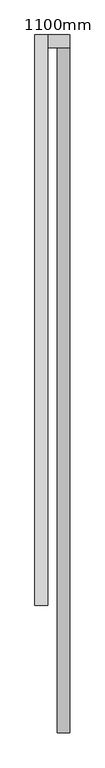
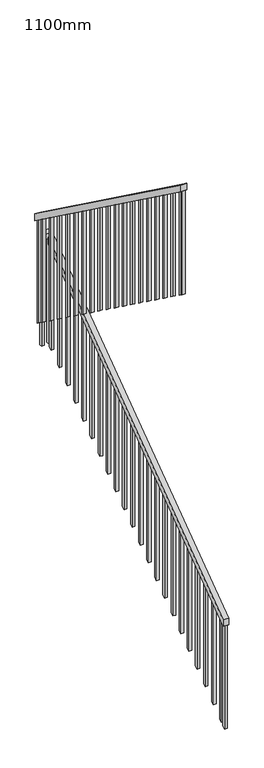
"""IFC4 building model written with IfcOpenShell, lengths in millimetres: railing geometry, 1100mm."""

from ifc_helpers import new_model, si_unit, frame, origin, place, context, project, spatial, polyline, outline, extrude, source, transform, mapped, element, save


def railing_1100mm_749a05fc(model_context):
    return source(origin(), model_context, "Body", "SweptSolid", [
        extrude(outline(polyline([(2041.5551306, 1219.9933159), (2041.5551306, 1281.8181818), (4741.5551306, 3245.4545455), (4741.5551306, 3183.6296795), (2041.5551306, 1219.9933159)])), frame((-10272.9693087, 0.0, 0.0), z_axis=(1.0, 0.0, 0.0), x_axis=(0.0, 1.0, 0.0)), (0.0, 0.0, 1.0), 50.0),
        extrude(outline(polyline([(-10222.9693087, 4791.5551306), (-10222.9693087, 4741.5551306), (-10310.8244727, 4741.5551306), (-10310.8244727, 4791.5551306), (-10222.9693087, 4791.5551306)])), frame((0.0, 0.0, 3231.8181818), z_axis=(0.0, 0.0, 1.0), x_axis=(1.0, 0.0, 0.0)), (0.0, 0.0, 1.0), 50.0),
        extrude(outline(polyline([(4791.5551306, 3463.6363636), (4791.5551306, 3401.8114977), (2541.5551306, 5038.1751341), (2541.5551306, 5100.0), (4791.5551306, 3463.6363636)])), frame((-10360.8244727, 0.0, 0.0), z_axis=(1.0, 0.0, 0.0), x_axis=(0.0, 1.0, 0.0)), (0.0, 0.0, 1.0), 50.0),
        extrude(outline(polyline([(2591.5551306, 4029.3786078), (2566.5551306, 4047.560426), (2566.5551306, 5019.9933159), (2591.5551306, 5001.8114977), (2591.5551306, 4029.3786078)])), frame((-10348.3244727, 0.0, 0.0), z_axis=(1.0, 0.0, 0.0), x_axis=(0.0, 1.0, 0.0)), (0.0, 0.0, 1.0), 25.0),
        extrude(outline(polyline([(2716.5551306, 3938.4695169), (2691.5551306, 3956.6513351), (2691.5551306, 4929.084225), (2716.5551306, 4910.9024068), (2716.5551306, 3938.4695169)])), frame((-10348.3244727, 0.0, 0.0), z_axis=(1.0, 0.0, 0.0), x_axis=(0.0, 1.0, 0.0)), (0.0, 0.0, 1.0), 25.0),
        extrude(outline(polyline([(2841.5551306, 3847.560426), (2816.5551306, 3865.7422442), (2816.5551306, 4838.1751341), (2841.5551306, 4819.9933159), (2841.5551306, 3847.560426)])), frame((-10348.3244727, 0.0, 0.0), z_axis=(1.0, 0.0, 0.0), x_axis=(0.0, 1.0, 0.0)), (0.0, 0.0, 1.0), 25.0),
        extrude(outline(polyline([(2966.5551306, 3756.6513351), (2941.5551306, 3774.8331533), (2941.5551306, 4747.2660431), (2966.5551306, 4729.084225), (2966.5551306, 3756.6513351)])), frame((-10348.3244727, 0.0, 0.0), z_axis=(1.0, 0.0, 0.0), x_axis=(0.0, 1.0, 0.0)), (0.0, 0.0, 1.0), 25.0),
        extrude(outline(polyline([(3091.5551306, 3665.7422442), (3066.5551306, 3683.9240624), (3066.5551306, 4656.3569522), (3091.5551306, 4638.1751341), (3091.5551306, 3665.7422442)])), frame((-10348.3244727, 0.0, 0.0), z_axis=(1.0, 0.0, 0.0), x_axis=(0.0, 1.0, 0.0)), (0.0, 0.0, 1.0), 25.0),
        extrude(outline(polyline([(3216.5551306, 3574.8331533), (3191.5551306, 3593.0149715), (3191.5551306, 4565.4478613), (3216.5551306, 4547.2660431), (3216.5551306, 3574.8331533)])), frame((-10348.3244727, 0.0, 0.0), z_axis=(1.0, 0.0, 0.0), x_axis=(0.0, 1.0, 0.0)), (0.0, 0.0, 1.0), 25.0),
        extrude(outline(polyline([(3341.5551306, 3483.9240624), (3316.5551306, 3502.1058806), (3316.5551306, 4474.5387704), (3341.5551306, 4456.3569522), (3341.5551306, 3483.9240624)])), frame((-10348.3244727, 0.0, 0.0), z_axis=(1.0, 0.0, 0.0), x_axis=(0.0, 1.0, 0.0)), (0.0, 0.0, 1.0), 25.0),
        extrude(outline(polyline([(3466.5551306, 3393.0149715), (3441.5551306, 3411.1967897), (3441.5551306, 4383.6296795), (3466.5551306, 4365.4478613), (3466.5551306, 3393.0149715)])), frame((-10348.3244727, 0.0, 0.0), z_axis=(1.0, 0.0, 0.0), x_axis=(0.0, 1.0, 0.0)), (0.0, 0.0, 1.0), 25.0),
        extrude(outline(polyline([(3591.5551306, 3302.1058806), (3566.5551306, 3320.2876987), (3566.5551306, 4292.7205886), (3591.5551306, 4274.5387704), (3591.5551306, 3302.1058806)])), frame((-10348.3244727, 0.0, 0.0), z_axis=(1.0, 0.0, 0.0), x_axis=(0.0, 1.0, 0.0)), (0.0, 0.0, 1.0), 25.0),
        extrude(outline(polyline([(3716.5551306, 3211.1967897), (3691.5551306, 3229.3786078), (3691.5551306, 4201.8114977), (3716.5551306, 4183.6296795), (3716.5551306, 3211.1967897)])), frame((-10348.3244727, 0.0, 0.0), z_axis=(1.0, 0.0, 0.0), x_axis=(0.0, 1.0, 0.0)), (0.0, 0.0, 1.0), 25.0),
        extrude(outline(polyline([(3841.5551306, 3120.2876987), (3816.5551306, 3138.4695169), (3816.5551306, 4110.9024068), (3841.5551306, 4092.7205886), (3841.5551306, 3120.2876987)])), frame((-10348.3244727, 0.0, 0.0), z_axis=(1.0, 0.0, 0.0), x_axis=(0.0, 1.0, 0.0)), (0.0, 0.0, 1.0), 25.0),
        extrude(outline(polyline([(3966.5551306, 3029.3786078), (3941.5551306, 3047.560426), (3941.5551306, 4019.9933159), (3966.5551306, 4001.8114977), (3966.5551306, 3029.3786078)])), frame((-10348.3244727, 0.0, 0.0), z_axis=(1.0, 0.0, 0.0), x_axis=(0.0, 1.0, 0.0)), (0.0, 0.0, 1.0), 25.0),
        extrude(outline(polyline([(4091.5551306, 2938.4695169), (4066.5551306, 2956.6513351), (4066.5551306, 3929.084225), (4091.5551306, 3910.9024068), (4091.5551306, 2938.4695169)])), frame((-10348.3244727, 0.0, 0.0), z_axis=(1.0, 0.0, 0.0), x_axis=(0.0, 1.0, 0.0)), (0.0, 0.0, 1.0), 25.0),
        extrude(outline(polyline([(4216.5551306, 2847.560426), (4191.5551306, 2865.7422442), (4191.5551306, 3838.1751341), (4216.5551306, 3819.9933159), (4216.5551306, 2847.560426)])), frame((-10348.3244727, 0.0, 0.0), z_axis=(1.0, 0.0, 0.0), x_axis=(0.0, 1.0, 0.0)), (0.0, 0.0, 1.0), 25.0),
        extrude(outline(polyline([(4341.5551306, 2756.6513351), (4316.5551306, 2774.8331533), (4316.5551306, 3747.2660431), (4341.5551306, 3729.084225), (4341.5551306, 2756.6513351)])), frame((-10348.3244727, 0.0, 0.0), z_axis=(1.0, 0.0, 0.0), x_axis=(0.0, 1.0, 0.0)), (0.0, 0.0, 1.0), 25.0),
        extrude(outline(polyline([(4466.5551306, 2665.7422442), (4441.5551306, 2683.9240624), (4441.5551306, 3656.3569522), (4466.5551306, 3638.1751341), (4466.5551306, 2665.7422442)])), frame((-10348.3244727, 0.0, 0.0), z_axis=(1.0, 0.0, 0.0), x_axis=(0.0, 1.0, 0.0)), (0.0, 0.0, 1.0), 25.0),
        extrude(outline(polyline([(4591.5551306, 2574.8331533), (4566.5551306, 2593.0149715), (4566.5551306, 3565.4478613), (4591.5551306, 3547.2660431), (4591.5551306, 2574.8331533)])), frame((-10348.3244727, 0.0, 0.0), z_axis=(1.0, 0.0, 0.0), x_axis=(0.0, 1.0, 0.0)), (0.0, 0.0, 1.0), 25.0),
        extrude(outline(polyline([(4716.5551306, 2483.9240624), (4691.5551306, 2502.1058806), (4691.5551306, 3474.5387704), (4716.5551306, 3456.3569522), (4716.5551306, 2483.9240624)])), frame((-10348.3244727, 0.0, 0.0), z_axis=(1.0, 0.0, 0.0), x_axis=(0.0, 1.0, 0.0)), (0.0, 0.0, 1.0), 25.0),
        extrude(outline(polyline([(-10297.9693087, 4754.0551306), (-10322.9693087, 4754.0551306), (-10322.9693087, 4779.0551306), (-10297.9693087, 4779.0551306), (-10297.9693087, 4754.0551306)])), frame((0.0, 0.0, 2228.5473649), z_axis=(0.0, 0.0, 1.0), x_axis=(1.0, 0.0, 0.0)), (0.0, 0.0, 1.0), 1003.2708169),
        extrude(outline(polyline([(4716.5551306, 3165.4478613), (4741.5551306, 3183.6296795), (4741.5551306, 2211.1967897), (4716.5551306, 2193.0149715), (4716.5551306, 3165.4478613)])), frame((-10260.4693087, 0.0, 0.0), z_axis=(1.0, 0.0, 0.0), x_axis=(0.0, 1.0, 0.0)), (0.0, 0.0, 1.0), 25.0),
        extrude(outline(polyline([(4591.5551306, 3074.5387704), (4616.5551306, 3092.7205886), (4616.5551306, 2120.2876987), (4591.5551306, 2102.1058806), (4591.5551306, 3074.5387704)])), frame((-10260.4693087, 0.0, 0.0), z_axis=(1.0, 0.0, 0.0), x_axis=(0.0, 1.0, 0.0)), (0.0, 0.0, 1.0), 25.0),
        extrude(outline(polyline([(4466.5551306, 2983.6296795), (4491.5551306, 3001.8114977), (4491.5551306, 2029.3786078), (4466.5551306, 2011.1967897), (4466.5551306, 2983.6296795)])), frame((-10260.4693087, 0.0, 0.0), z_axis=(1.0, 0.0, 0.0), x_axis=(0.0, 1.0, 0.0)), (0.0, 0.0, 1.0), 25.0),
        extrude(outline(polyline([(4341.5551306, 2892.7205886), (4366.5551306, 2910.9024068), (4366.5551306, 1938.4695169), (4341.5551306, 1920.2876987), (4341.5551306, 2892.7205886)])), frame((-10260.4693087, 0.0, 0.0), z_axis=(1.0, 0.0, 0.0), x_axis=(0.0, 1.0, 0.0)), (0.0, 0.0, 1.0), 25.0),
        extrude(outline(polyline([(4216.5551306, 2801.8114977), (4241.5551306, 2819.9933159), (4241.5551306, 1847.560426), (4216.5551306, 1829.3786078), (4216.5551306, 2801.8114977)])), frame((-10260.4693087, 0.0, 0.0), z_axis=(1.0, 0.0, 0.0), x_axis=(0.0, 1.0, 0.0)), (0.0, 0.0, 1.0), 25.0),
        extrude(outline(polyline([(4091.5551306, 2710.9024068), (4116.5551306, 2729.084225), (4116.5551306, 1756.6513351), (4091.5551306, 1738.4695169), (4091.5551306, 2710.9024068)])), frame((-10260.4693087, 0.0, 0.0), z_axis=(1.0, 0.0, 0.0), x_axis=(0.0, 1.0, 0.0)), (0.0, 0.0, 1.0), 25.0),
        extrude(outline(polyline([(3966.5551306, 2619.9933159), (3991.5551306, 2638.1751341), (3991.5551306, 1665.7422442), (3966.5551306, 1647.560426), (3966.5551306, 2619.9933159)])), frame((-10260.4693087, 0.0, 0.0), z_axis=(1.0, 0.0, 0.0), x_axis=(0.0, 1.0, 0.0)), (0.0, 0.0, 1.0), 25.0),
        extrude(outline(polyline([(3841.5551306, 2529.084225), (3866.5551306, 2547.2660431), (3866.5551306, 1574.8331533), (3841.5551306, 1556.6513351), (3841.5551306, 2529.084225)])), frame((-10260.4693087, 0.0, 0.0), z_axis=(1.0, 0.0, 0.0), x_axis=(0.0, 1.0, 0.0)), (0.0, 0.0, 1.0), 25.0),
        extrude(outline(polyline([(3716.5551306, 2438.1751341), (3741.5551306, 2456.3569522), (3741.5551306, 1483.9240624), (3716.5551306, 1465.7422442), (3716.5551306, 2438.1751341)])), frame((-10260.4693087, 0.0, 0.0), z_axis=(1.0, 0.0, 0.0), x_axis=(0.0, 1.0, 0.0)), (0.0, 0.0, 1.0), 25.0),
        extrude(outline(polyline([(3591.5551306, 2347.2660431), (3616.5551306, 2365.4478613), (3616.5551306, 1393.0149715), (3591.5551306, 1374.8331533), (3591.5551306, 2347.2660431)])), frame((-10260.4693087, 0.0, 0.0), z_axis=(1.0, 0.0, 0.0), x_axis=(0.0, 1.0, 0.0)), (0.0, 0.0, 1.0), 25.0),
        extrude(outline(polyline([(3466.5551306, 2256.3569522), (3491.5551306, 2274.5387704), (3491.5551306, 1302.1058806), (3466.5551306, 1283.9240624), (3466.5551306, 2256.3569522)])), frame((-10260.4693087, 0.0, 0.0), z_axis=(1.0, 0.0, 0.0), x_axis=(0.0, 1.0, 0.0)), (0.0, 0.0, 1.0), 25.0),
        extrude(outline(polyline([(3341.5551306, 2165.4478613), (3366.5551306, 2183.6296795), (3366.5551306, 1211.1967897), (3341.5551306, 1193.0149715), (3341.5551306, 2165.4478613)])), frame((-10260.4693087, 0.0, 0.0), z_axis=(1.0, 0.0, 0.0), x_axis=(0.0, 1.0, 0.0)), (0.0, 0.0, 1.0), 25.0),
        extrude(outline(polyline([(3216.5551306, 2074.5387704), (3241.5551306, 2092.7205886), (3241.5551306, 1120.2876987), (3216.5551306, 1102.1058806), (3216.5551306, 2074.5387704)])), frame((-10260.4693087, 0.0, 0.0), z_axis=(1.0, 0.0, 0.0), x_axis=(0.0, 1.0, 0.0)), (0.0, 0.0, 1.0), 25.0),
        extrude(outline(polyline([(3091.5551306, 1983.6296795), (3116.5551306, 2001.8114977), (3116.5551306, 1029.3786078), (3091.5551306, 1011.1967897), (3091.5551306, 1983.6296795)])), frame((-10260.4693087, 0.0, 0.0), z_axis=(1.0, 0.0, 0.0), x_axis=(0.0, 1.0, 0.0)), (0.0, 0.0, 1.0), 25.0),
        extrude(outline(polyline([(2966.5551306, 1892.7205886), (2991.5551306, 1910.9024068), (2991.5551306, 938.4695169), (2966.5551306, 920.2876987), (2966.5551306, 1892.7205886)])), frame((-10260.4693087, 0.0, 0.0), z_axis=(1.0, 0.0, 0.0), x_axis=(0.0, 1.0, 0.0)), (0.0, 0.0, 1.0), 25.0),
        extrude(outline(polyline([(2841.5551306, 1801.8114977), (2866.5551306, 1819.9933159), (2866.5551306, 847.560426), (2841.5551306, 829.3786078), (2841.5551306, 1801.8114977)])), frame((-10260.4693087, 0.0, 0.0), z_axis=(1.0, 0.0, 0.0), x_axis=(0.0, 1.0, 0.0)), (0.0, 0.0, 1.0), 25.0),
        extrude(outline(polyline([(2716.5551306, 1710.9024068), (2741.5551306, 1729.084225), (2741.5551306, 756.6513351), (2716.5551306, 738.4695169), (2716.5551306, 1710.9024068)])), frame((-10260.4693087, 0.0, 0.0), z_axis=(1.0, 0.0, 0.0), x_axis=(0.0, 1.0, 0.0)), (0.0, 0.0, 1.0), 25.0),
        extrude(outline(polyline([(2591.5551306, 1619.9933159), (2616.5551306, 1638.1751341), (2616.5551306, 665.7422442), (2591.5551306, 647.560426), (2591.5551306, 1619.9933159)])), frame((-10260.4693087, 0.0, 0.0), z_axis=(1.0, 0.0, 0.0), x_axis=(0.0, 1.0, 0.0)), (0.0, 0.0, 1.0), 25.0),
        extrude(outline(polyline([(2466.5551306, 1529.084225), (2491.5551306, 1547.2660431), (2491.5551306, 574.8331533), (2466.5551306, 556.6513351), (2466.5551306, 1529.084225)])), frame((-10260.4693087, 0.0, 0.0), z_axis=(1.0, 0.0, 0.0), x_axis=(0.0, 1.0, 0.0)), (0.0, 0.0, 1.0), 25.0),
        extrude(outline(polyline([(2341.5551306, 1438.1751341), (2366.5551306, 1456.3569522), (2366.5551306, 483.9240624), (2341.5551306, 465.7422442), (2341.5551306, 1438.1751341)])), frame((-10260.4693087, 0.0, 0.0), z_axis=(1.0, 0.0, 0.0), x_axis=(0.0, 1.0, 0.0)), (0.0, 0.0, 1.0), 25.0),
        extrude(outline(polyline([(2216.5551306, 1347.2660431), (2241.5551306, 1365.4478613), (2241.5551306, 393.0149715), (2216.5551306, 374.8331533), (2216.5551306, 1347.2660431)])), frame((-10260.4693087, 0.0, 0.0), z_axis=(1.0, 0.0, 0.0), x_axis=(0.0, 1.0, 0.0)), (0.0, 0.0, 1.0), 25.0),
        extrude(outline(polyline([(2091.5551306, 1256.3569522), (2116.5551306, 1274.5387704), (2116.5551306, 302.1058806), (2091.5551306, 283.9240624), (2091.5551306, 1256.3569522)])), frame((-10260.4693087, 0.0, 0.0), z_axis=(1.0, 0.0, 0.0), x_axis=(0.0, 1.0, 0.0)), (0.0, 0.0, 1.0), 25.0),
        extrude(outline(polyline([(4779.0551306, 2438.4695169), (4754.0551306, 2456.6513351), (4754.0551306, 3429.084225), (4779.0551306, 3410.9024068), (4779.0551306, 2438.4695169)])), frame((-10348.3244727, 0.0, 0.0), z_axis=(1.0, 0.0, 0.0), x_axis=(0.0, 1.0, 0.0)), (0.0, 0.0, 1.0), 25.0),
        extrude(outline(polyline([(-10235.4693087, 4754.0551306), (-10260.4693087, 4754.0551306), (-10260.4693087, 4779.0551306), (-10235.4693087, 4779.0551306), (-10235.4693087, 4754.0551306)])), frame((0.0, 0.0, 2228.5473649), z_axis=(0.0, 0.0, 1.0), x_axis=(1.0, 0.0, 0.0)), (0.0, 0.0, 1.0), 1003.2708169),
        extrude(outline(polyline([(2566.5551306, 4047.560426), (2541.5551306, 4065.7422442), (2541.5551306, 5038.1751341), (2566.5551306, 5019.9933159), (2566.5551306, 4047.560426)])), frame((-10348.3244727, 0.0, 0.0), z_axis=(1.0, 0.0, 0.0), x_axis=(0.0, 1.0, 0.0)), (0.0, 0.0, 1.0), 25.0),
        extrude(outline(polyline([(2041.5551306, 1219.9933159), (2066.5551306, 1238.1751341), (2066.5551306, 265.7422442), (2041.5551306, 247.560426), (2041.5551306, 1219.9933159)])), frame((-10260.4693087, 0.0, 0.0), z_axis=(1.0, 0.0, 0.0), x_axis=(0.0, 1.0, 0.0)), (0.0, 0.0, 1.0), 25.0),
    ])


if __name__ == "__main__":
    model = new_model("IFC4")
    model_context = context("Model", 3, world=origin())
    ifc_project = project(units=[si_unit("LENGTHUNIT", "METRE", prefix="MILLI")], contexts=[model_context])
    site = spatial("IfcSite", under=ifc_project)
    building = spatial("IfcBuilding", under=site)
    placement = place(None, origin())
    railing_1100mm_shape = railing_1100mm_749a05fc(model_context)
    element("IfcRailing", 1, ObjectType="1100mm", at=placement, inside=building, context=model_context, shape_type="MappedRepresentation", body=[
        mapped(railing_1100mm_shape, transform((0.0, 0.0, 0.0), x_axis=(1.0, 0.0, 0.0), y_axis=(0.0, 1.0, 0.0), z_axis=(0.0, 0.0, 1.0))),
    ])
    save(model, "model.ifc")
